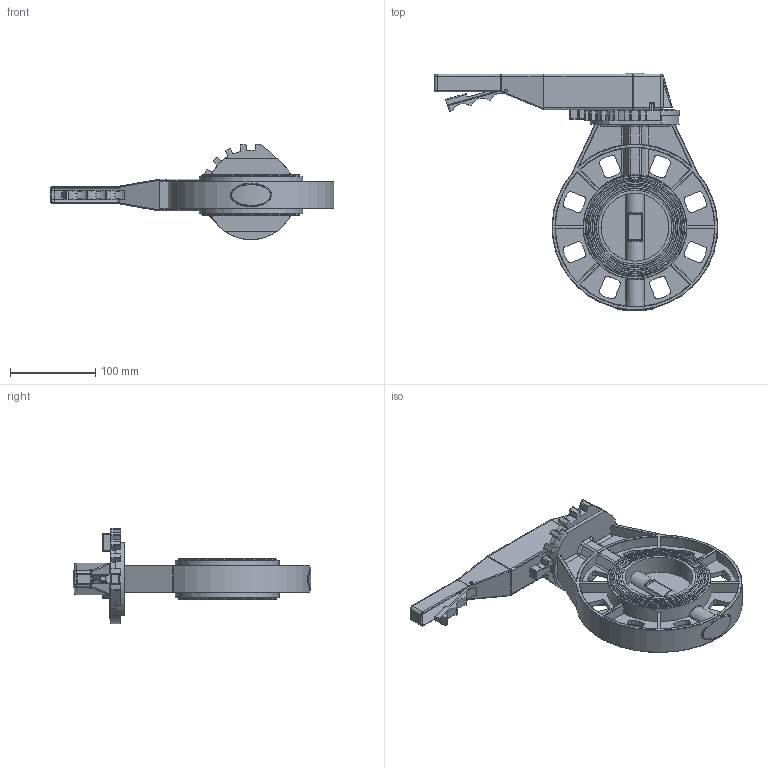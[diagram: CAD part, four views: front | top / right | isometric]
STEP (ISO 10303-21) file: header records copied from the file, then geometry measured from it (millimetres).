
FILE_DESCRIPTION(('STEP AP242'), '1');
FILE_NAME('WBV4242E-2W-Fb-H 青蜮铕 滂耜钼 DN.ru 捏80 畜10', '', ('UNSPECIFIED'), ('UNSPECIFIED'), 'C3D Converter', 'C3D Toolkit', '');
FILE_SCHEMA(('AP242_MANAGED_MODEL_BASED_3D_ENGINEERING_MIM_LF { 1 0 10303 442 1 1 4 }'));
Length unit declared in the file: millimetre
Products named in the file (1): WBV4242E-2W-Fb-H
Bounding box: 333.45 x 279.59 x 112.16 mm (x, y, z)
Volume: 781820 mm3; surface area: 281995.7 mm2
Topology: 2 solids, 2 shells, 973 faces, 2465 edges, 1535 vertices
Faces by surface type: plane 353, cylinder 280, bspline 258, torus 74, sphere 8
Full cylindrical faces by diameter (mm): 15 x1, 22 x2, 80 x2, 115.2 x1, 116 x1, 122 x2
Entity records: 73461 total; most frequent: CARTESIAN_POINT 43974, ORIENTED_EDGE 4858, DIRECTION 3828, EDGE_CURVE 2429, VERTEX_POINT 1535, AXIS2_PLACEMENT_3D 1332, LINE 1164, VECTOR 1164
